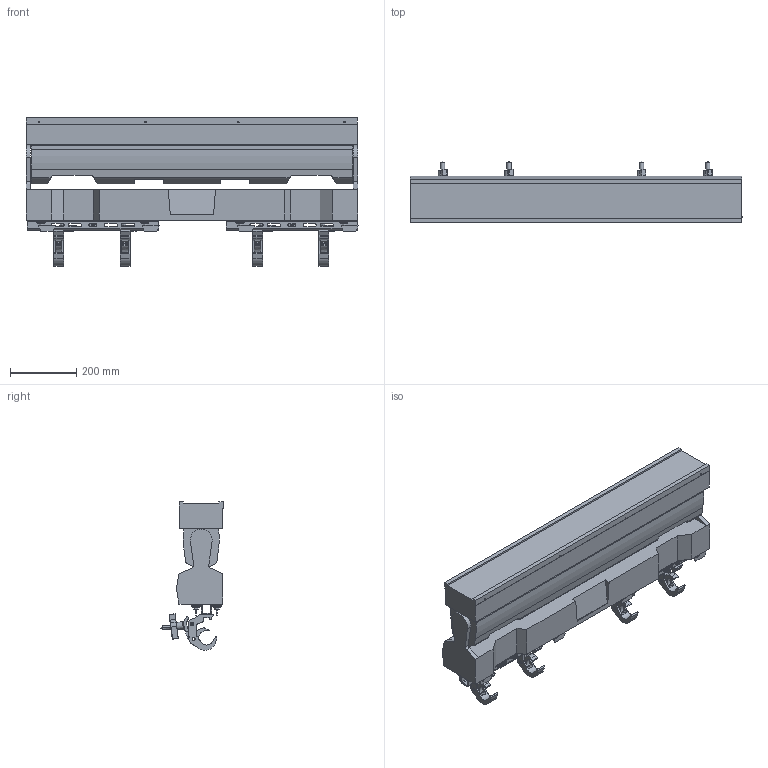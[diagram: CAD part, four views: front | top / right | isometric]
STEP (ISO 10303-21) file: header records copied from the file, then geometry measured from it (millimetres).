
FILE_DESCRIPTION((''),'2;1');
FILE_NAME('GLP-21218_ASM','2023-02-23T14:45:10',('Michael.Spatz'),(''),'CREO PARAMETRIC BY PTC INC, 2022014','CREO PARAMETRIC BY PTC INC, 2022014','');
FILE_SCHEMA(('AUTOMOTIVE_DESIGN { 1 0 10303 214 1 1 1 1 }'));
Length unit declared in the file: millimetre
Products named in the file (4): GLP-14055; GLP-14056; GLP-20042_SW0001; GLP-21218_ASM
Assembly tree (4 placements, depth 2):
  GLP-21218_ASM
    GLP-14055
    GLP-14056
    GLP-20042_SW0001  x2
Bounding box: 1000.5 x 187.45 x 448.51 mm (x, y, z)
Volume: 32668542.6 mm3; surface area: 1560527.4 mm2
Topology: 3 solids, 95 shells, 1876 faces, 5469 edges, 3678 vertices
Faces by surface type: plane 486, cylinder 408, revolution 400, bspline 398, cone 104, sphere 48, torus 32
Entity records: 40090 total; most frequent: CARTESIAN_POINT 9562, ORIENTED_EDGE 5378, DIRECTION 5205, EDGE_CURVE 2913, VERTEX_POINT 1964, AXIS2_PLACEMENT_3D 1786, VECTOR 1421, LINE 1421
